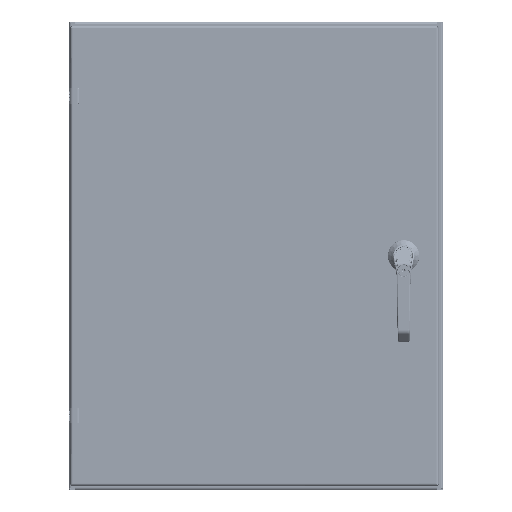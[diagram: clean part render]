
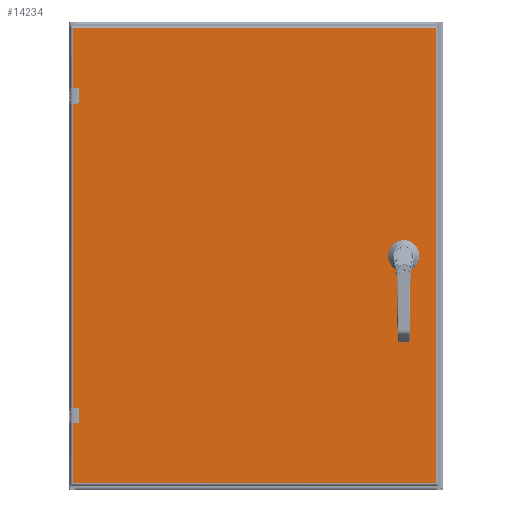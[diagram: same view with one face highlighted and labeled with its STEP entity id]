
A CAD part, top view. The second image highlights one B-rep face of the part: STEP entity #14234.
In plain terms, the highlighted planar face has unit normal (0, 0, 1).
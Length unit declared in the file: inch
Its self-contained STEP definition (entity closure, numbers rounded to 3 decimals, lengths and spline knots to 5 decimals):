
#11369=CARTESIAN_POINT('',(9.5625,-1.094,0.));
#11370=DIRECTION('',(0.,0.,1.));
#11371=DIRECTION('',(-1.,0.,0.));
#11372=AXIS2_PLACEMENT_3D('',#11369,#11370,#11371);
#11377=CARTESIAN_POINT('',(9.5625,-1.094,0.));
#11378=DIRECTION('',(0.,0.,1.));
#11379=DIRECTION('',(1.,0.,0.));
#11380=AXIS2_PLACEMENT_3D('',#11377,#11378,#11379);
#11385=DIRECTION('',(1.,0.,0.));
#11386=VECTOR('',#11385,0.39715);
#11387=CARTESIAN_POINT('',(9.36392,0.396,0.));
#11388=LINE('',#11387,#11386);
#11392=CARTESIAN_POINT('',(9.5625,0.,0.));
#11393=DIRECTION('',(0.,0.,1.));
#11394=DIRECTION('',(-0.448,0.894,0.));
#11395=AXIS2_PLACEMENT_3D('',#11392,#11393,#11394);
#11400=DIRECTION('',(0.,1.,0.));
#11401=VECTOR('',#11400,0.39715);
#11402=CARTESIAN_POINT('',(9.1665,-0.19858,0.));
#11403=LINE('',#11402,#11401);
#11407=CARTESIAN_POINT('',(9.5625,0.,0.));
#11408=DIRECTION('',(0.,0.,1.));
#11409=DIRECTION('',(-0.894,-0.448,0.));
#11410=AXIS2_PLACEMENT_3D('',#11407,#11408,#11409);
#11415=DIRECTION('',(-1.,0.,0.));
#11416=VECTOR('',#11415,0.39715);
#11417=CARTESIAN_POINT('',(9.76108,-0.396,0.));
#11418=LINE('',#11417,#11416);
#11422=CARTESIAN_POINT('',(9.5625,0.,0.));
#11423=DIRECTION('',(0.,0.,1.));
#11424=DIRECTION('',(0.448,-0.894,0.));
#11425=AXIS2_PLACEMENT_3D('',#11422,#11423,#11424);
#11430=DIRECTION('',(0.,-1.,0.));
#11431=VECTOR('',#11430,0.39715);
#11432=CARTESIAN_POINT('',(9.9585,0.19858,0.));
#11433=LINE('',#11432,#11431);
#11437=CARTESIAN_POINT('',(9.5625,0.,0.));
#11438=DIRECTION('',(0.,0.,1.));
#11439=DIRECTION('',(0.894,0.448,0.));
#11440=AXIS2_PLACEMENT_3D('',#11437,#11438,#11439);
#11445=DIRECTION('',(1.,0.,0.));
#11446=VECTOR('',#11445,0.339);
#11447=CARTESIAN_POINT('',(-11.6675,-10.595,0.));
#11448=LINE('',#11447,#11446);
#11452=DIRECTION('',(0.,-1.,0.));
#11453=VECTOR('',#11452,0.63);
#11454=CARTESIAN_POINT('',(-11.2985,-9.935,0.));
#11455=LINE('',#11454,#11453);
#11459=DIRECTION('',(1.,0.,0.));
#11460=VECTOR('',#11459,0.339);
#11461=CARTESIAN_POINT('',(-11.6675,-9.905,0.));
#11462=LINE('',#11461,#11460);
#11466=DIRECTION('',(1.,0.,0.));
#11467=VECTOR('',#11466,0.339);
#11468=CARTESIAN_POINT('',(-11.6675,9.905,0.));
#11469=LINE('',#11468,#11467);
#11473=DIRECTION('',(0.,-1.,0.));
#11474=VECTOR('',#11473,0.63);
#11475=CARTESIAN_POINT('',(-11.2985,10.565,0.));
#11476=LINE('',#11475,#11474);
#11480=DIRECTION('',(1.,0.,0.));
#11481=VECTOR('',#11480,0.339);
#11482=CARTESIAN_POINT('',(-11.6675,10.595,0.));
#11483=LINE('',#11482,#11481);
#11980=DIRECTION('',(0.,1.,0.));
#11981=VECTOR('',#11980,19.81);
#11982=CARTESIAN_POINT('',(-11.6675,-9.905,0.));
#11983=LINE('',#11982,#11981);
#12007=DIRECTION('',(0.,1.,0.));
#12008=VECTOR('',#12007,4.01);
#12009=CARTESIAN_POINT('',(-11.6675,10.595,0.));
#12010=LINE('',#12009,#12008);
#12064=DIRECTION('',(0.,1.,0.));
#12065=VECTOR('',#12064,4.01);
#12066=CARTESIAN_POINT('',(-11.6675,-14.605,0.));
#12067=LINE('',#12066,#12065);
#12727=CARTESIAN_POINT('',(-11.3285,-10.565,0.));
#12728=DIRECTION('',(0.,0.,-1.));
#12729=DIRECTION('',(1.,0.,0.));
#12730=AXIS2_PLACEMENT_3D('',#12727,#12728,#12729);
#12757=CARTESIAN_POINT('',(-11.3285,-9.935,0.));
#12758=DIRECTION('',(0.,0.,-1.));
#12759=DIRECTION('',(0.,1.,0.));
#12760=AXIS2_PLACEMENT_3D('',#12757,#12758,#12759);
#12861=CARTESIAN_POINT('',(-11.3285,10.565,0.));
#12862=DIRECTION('',(0.,0.,-1.));
#12863=DIRECTION('',(0.,1.,0.));
#12864=AXIS2_PLACEMENT_3D('',#12861,#12862,#12863);
#12891=CARTESIAN_POINT('',(-11.3285,9.935,0.));
#12892=DIRECTION('',(0.,0.,-1.));
#12893=DIRECTION('',(1.,0.,0.));
#12894=AXIS2_PLACEMENT_3D('',#12891,#12892,#12893);
#13506=DIRECTION('',(-1.,0.,0.));
#13507=VECTOR('',#13506,23.335);
#13508=CARTESIAN_POINT('',(11.6675,-14.605,0.));
#13509=LINE('',#13508,#13507);
#13558=DIRECTION('',(0.,-1.,0.));
#13559=VECTOR('',#13558,29.21);
#13560=CARTESIAN_POINT('',(11.6675,14.605,0.));
#13561=LINE('',#13560,#13559);
#13701=DIRECTION('',(1.,0.,0.));
#13702=VECTOR('',#13701,23.335);
#13703=CARTESIAN_POINT('',(-11.6675,14.605,0.));
#13704=LINE('',#13703,#13702);
#13795=CARTESIAN_POINT('',(11.6675,14.605,0.));
#13796=CARTESIAN_POINT('',(11.6675,-14.605,0.));
#13797=VERTEX_POINT('',#13795);
#13798=VERTEX_POINT('',#13796);
#13883=CARTESIAN_POINT('',(9.4375,-1.094,0.));
#13884=CARTESIAN_POINT('',(9.6875,-1.094,0.));
#13885=VERTEX_POINT('',#13883);
#13886=VERTEX_POINT('',#13884);
#13887=CARTESIAN_POINT('',(9.36392,0.396,0.));
#13888=CARTESIAN_POINT('',(9.76108,0.396,0.));
#13889=VERTEX_POINT('',#13887);
#13890=VERTEX_POINT('',#13888);
#13891=CARTESIAN_POINT('',(9.9585,0.19858,0.));
#13892=VERTEX_POINT('',#13891);
#13893=CARTESIAN_POINT('',(9.9585,-0.19858,0.));
#13894=VERTEX_POINT('',#13893);
#13895=CARTESIAN_POINT('',(9.76108,-0.396,0.));
#13896=VERTEX_POINT('',#13895);
#13897=CARTESIAN_POINT('',(9.36392,-0.396,0.));
#13898=VERTEX_POINT('',#13897);
#13899=CARTESIAN_POINT('',(9.1665,-0.19858,0.));
#13900=VERTEX_POINT('',#13899);
#13901=CARTESIAN_POINT('',(9.1665,0.19858,0.));
#13902=VERTEX_POINT('',#13901);
#13932=CARTESIAN_POINT('',(-11.6675,14.605,0.));
#13934=VERTEX_POINT('',#13932);
#13939=CARTESIAN_POINT('',(-11.6675,-14.605,0.));
#13941=VERTEX_POINT('',#13939);
#14075=CARTESIAN_POINT('',(-11.6675,9.905,0.));
#14077=VERTEX_POINT('',#14075);
#14079=CARTESIAN_POINT('',(-11.6675,10.595,0.));
#14081=VERTEX_POINT('',#14079);
#14091=CARTESIAN_POINT('',(-11.6675,-10.595,0.));
#14093=VERTEX_POINT('',#14091);
#14095=CARTESIAN_POINT('',(-11.6675,-9.905,0.));
#14097=VERTEX_POINT('',#14095);
#14115=CARTESIAN_POINT('',(-11.2985,9.935,0.));
#14117=VERTEX_POINT('',#14115);
#14119=CARTESIAN_POINT('',(-11.3285,9.905,0.));
#14121=VERTEX_POINT('',#14119);
#14123=CARTESIAN_POINT('',(-11.3285,10.595,0.));
#14125=VERTEX_POINT('',#14123);
#14127=CARTESIAN_POINT('',(-11.2985,10.565,0.));
#14129=VERTEX_POINT('',#14127);
#14139=CARTESIAN_POINT('',(-11.2985,-10.565,0.));
#14141=VERTEX_POINT('',#14139);
#14143=CARTESIAN_POINT('',(-11.3285,-10.595,0.));
#14145=VERTEX_POINT('',#14143);
#14147=CARTESIAN_POINT('',(-11.3285,-9.905,0.));
#14149=VERTEX_POINT('',#14147);
#14151=CARTESIAN_POINT('',(-11.2985,-9.935,0.));
#14153=VERTEX_POINT('',#14151);
#14171=CARTESIAN_POINT('',(0.,0.,0.));
#14172=DIRECTION('',(0.,0.,-1.));
#14173=DIRECTION('',(1.,0.,0.));
#14174=AXIS2_PLACEMENT_3D('',#14171,#14172,#14173);
#14175=PLANE('',#14174);
#14177=ORIENTED_EDGE('',*,*,#14176,.T.);
#14179=ORIENTED_EDGE('',*,*,#14178,.T.);
#14181=ORIENTED_EDGE('',*,*,#14180,.T.);
#14183=ORIENTED_EDGE('',*,*,#14182,.F.);
#14185=ORIENTED_EDGE('',*,*,#14184,.F.);
#14187=ORIENTED_EDGE('',*,*,#14186,.F.);
#14189=ORIENTED_EDGE('',*,*,#14188,.F.);
#14191=ORIENTED_EDGE('',*,*,#14190,.T.);
#14193=ORIENTED_EDGE('',*,*,#14192,.T.);
#14195=ORIENTED_EDGE('',*,*,#14194,.F.);
#14197=ORIENTED_EDGE('',*,*,#14196,.F.);
#14199=ORIENTED_EDGE('',*,*,#14198,.F.);
#14201=ORIENTED_EDGE('',*,*,#14200,.F.);
#14203=ORIENTED_EDGE('',*,*,#14202,.T.);
#14205=ORIENTED_EDGE('',*,*,#14204,.T.);
#14207=ORIENTED_EDGE('',*,*,#14206,.T.);
#14208=EDGE_LOOP('',(#14177,#14179,#14181,#14183,#14185,#14187,#14189,#14191,
#14193,#14195,#14197,#14199,#14201,#14203,#14205,#14207));
#14209=FACE_OUTER_BOUND('',#14208,.F.);
#14211=ORIENTED_EDGE('',*,*,#14210,.F.);
#14213=ORIENTED_EDGE('',*,*,#14212,.T.);
#14215=ORIENTED_EDGE('',*,*,#14214,.F.);
#14217=ORIENTED_EDGE('',*,*,#14216,.T.);
#14219=ORIENTED_EDGE('',*,*,#14218,.F.);
#14221=ORIENTED_EDGE('',*,*,#14220,.T.);
#14223=ORIENTED_EDGE('',*,*,#14222,.F.);
#14225=ORIENTED_EDGE('',*,*,#14224,.T.);
#14226=EDGE_LOOP('',(#14211,#14213,#14215,#14217,#14219,#14221,#14223,#14225));
#14227=FACE_BOUND('',#14226,.F.);
#14229=ORIENTED_EDGE('',*,*,#14228,.T.);
#14231=ORIENTED_EDGE('',*,*,#14230,.T.);
#14232=EDGE_LOOP('',(#14229,#14231));
#14233=FACE_BOUND('',#14232,.F.);
#11373=CIRCLE('',#11372,0.125);
#11381=CIRCLE('',#11380,0.125);
#11396=CIRCLE('',#11395,0.443);
#11411=CIRCLE('',#11410,0.443);
#11426=CIRCLE('',#11425,0.443);
#11441=CIRCLE('',#11440,0.443);
#12731=CIRCLE('',#12730,0.03);
#12761=CIRCLE('',#12760,0.03);
#12865=CIRCLE('',#12864,0.03);
#12895=CIRCLE('',#12894,0.03);
#14176=EDGE_CURVE('',#13798,#13941,#13509,.T.);
#14178=EDGE_CURVE('',#13941,#14093,#12067,.T.);
#14180=EDGE_CURVE('',#14093,#14145,#11448,.T.);
#14182=EDGE_CURVE('',#14141,#14145,#12731,.T.);
#14184=EDGE_CURVE('',#14153,#14141,#11455,.T.);
#14186=EDGE_CURVE('',#14149,#14153,#12761,.T.);
#14188=EDGE_CURVE('',#14097,#14149,#11462,.T.);
#14190=EDGE_CURVE('',#14097,#14077,#11983,.T.);
#14192=EDGE_CURVE('',#14077,#14121,#11469,.T.);
#14194=EDGE_CURVE('',#14117,#14121,#12895,.T.);
#14196=EDGE_CURVE('',#14129,#14117,#11476,.T.);
#14198=EDGE_CURVE('',#14125,#14129,#12865,.T.);
#14200=EDGE_CURVE('',#14081,#14125,#11483,.T.);
#14202=EDGE_CURVE('',#14081,#13934,#12010,.T.);
#14204=EDGE_CURVE('',#13934,#13797,#13704,.T.);
#14206=EDGE_CURVE('',#13797,#13798,#13561,.T.);
#14210=EDGE_CURVE('',#13889,#13890,#11388,.T.);
#14212=EDGE_CURVE('',#13889,#13902,#11396,.T.);
#14214=EDGE_CURVE('',#13900,#13902,#11403,.T.);
#14216=EDGE_CURVE('',#13900,#13898,#11411,.T.);
#14218=EDGE_CURVE('',#13896,#13898,#11418,.T.);
#14220=EDGE_CURVE('',#13896,#13894,#11426,.T.);
#14222=EDGE_CURVE('',#13892,#13894,#11433,.T.);
#14224=EDGE_CURVE('',#13892,#13890,#11441,.T.);
#14228=EDGE_CURVE('',#13885,#13886,#11373,.T.);
#14230=EDGE_CURVE('',#13886,#13885,#11381,.T.);
#14234=ADVANCED_FACE('',(#14209,#14227,#14233),#14175,.F.);
